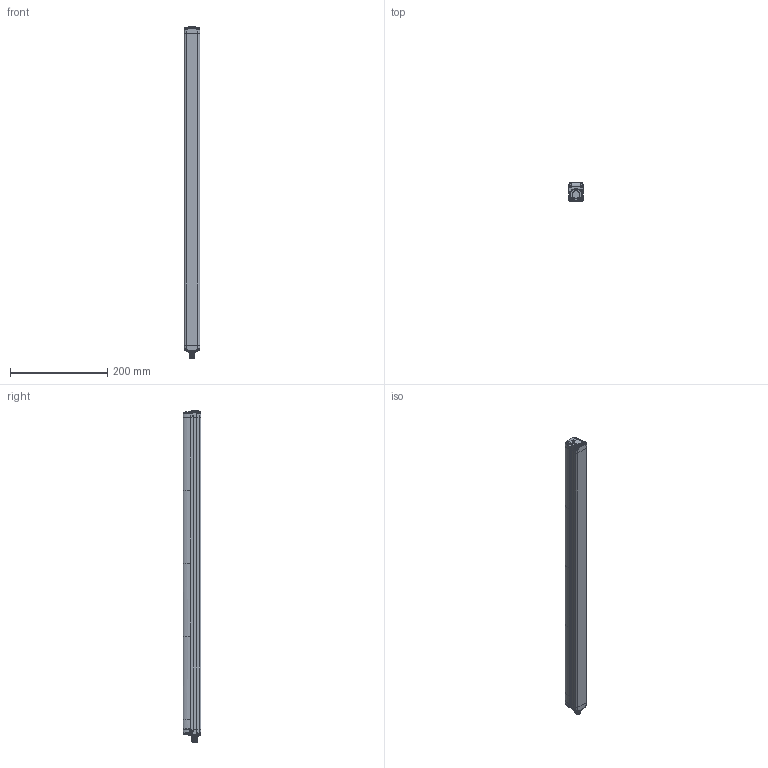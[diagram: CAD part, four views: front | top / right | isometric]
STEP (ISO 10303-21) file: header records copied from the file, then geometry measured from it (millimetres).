
FILE_DESCRIPTION(/* description */ (''),/* implementation_level */ '2;1');
FILE_NAME(/* name */ 'DSD-0148.stp',/* time_stamp */ '2020-07-15T15:35:37+02:00',/* author */ (''),/* organization */ (''),/* preprocessor_version */ 'ST-DEVELOPER v16.7',/* originating_system */ 'SIEMENS PLM Software NX 12.0',/* authorisation */ '');
FILE_SCHEMA (('AUTOMOTIVE_DESIGN { 1 0 10303 214 3 1 1 1 }'));
Products named in the file (1): AP025789_00_1-DSD-0148
Bounding box: 32.3 x 36.9 x 683.24 mm (x, y, z)
Volume: 662491.2 mm3; surface area: 161828.8 mm2
Topology: 12 solids, 716 shells, 1618 faces, 5073 edges, 4000 vertices
Faces by surface type: cylinder 606, bspline 552, plane 376, sphere 49, cone 27, torus 8
Full cylindrical faces by diameter (mm): 1 x8, 1.5 x6, 2 x6, 2.05 x4, 2.5 x12, 2.7 x10, 2.9 x6, 3 x12, 3.4 x6, 3.6 x12, 4.7 x2, 5 x10, 5.3 x2, 7.5 x1, 8 x1, 8.2 x1, 9.3 x1, 9.5 x1, 9.55 x1, 10.5 x1, 11 x2, 12 x12, 13.97 x1, 14.3 x1, 16 x2
Entity records: 83731 total; most frequent: CARTESIAN_POINT 35458, ORIENTED_EDGE 6894, DIRECTION 5925, EDGE_CURVE 4873, VERTEX_POINT 3998, AXIS2_PLACEMENT_3D 2314, EDGE_LOOP 1855, PRESENTATION_STYLE_ASSIGNMENT 1628
